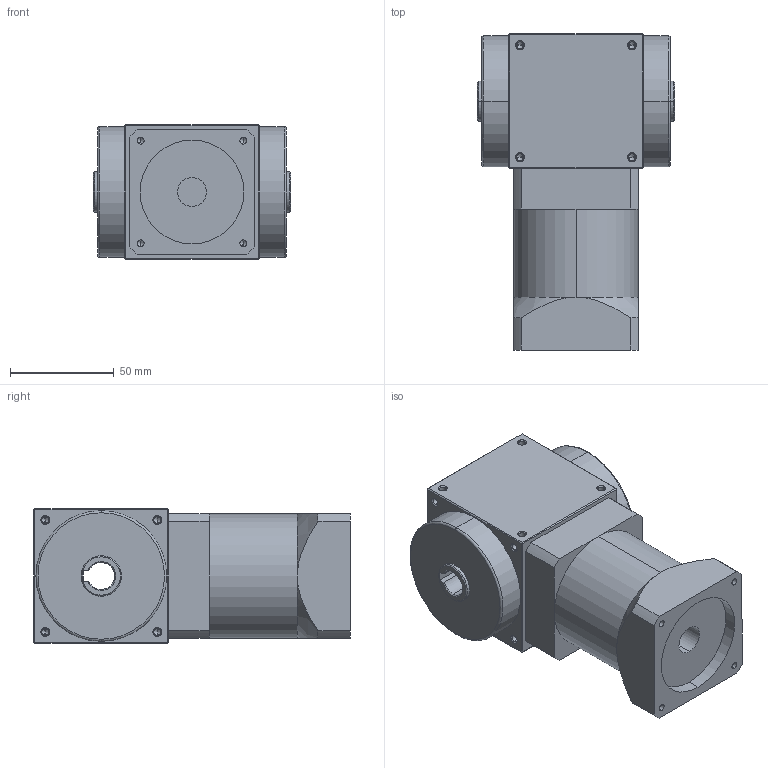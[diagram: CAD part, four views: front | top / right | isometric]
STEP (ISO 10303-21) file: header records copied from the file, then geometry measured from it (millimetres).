
FILE_DESCRIPTION (( 'STEP AP214' ), '1' );
FILE_NAME ('AT065-FH-L1--14-50-70-M4.STEP', '2019-07-06T03:17:05', ( 'User' ), ( 'Far123' ), 'SwSTEP 2.0', 'SolidWorks 2015', '' );
FILE_SCHEMA (( 'AUTOMOTIVE_DESIGN' ));
Length unit declared in the file: millimetre
Products named in the file (1): AT065-FH-L1--14-50-70-M4
Bounding box: 95 x 152.5 x 65 mm (x, y, z)
Volume: 603627.8 mm3; surface area: 57730 mm2
Topology: 1 solids, 1 shells, 267 faces, 670 edges, 364 vertices
Faces by surface type: cylinder 113, cone 102, plane 48, torus 4
Entity records: 8610 total; most frequent: CARTESIAN_POINT 1722, ORIENTED_EDGE 1244, DIRECTION 1242, EDGE_CURVE 622, AXIS2_PLACEMENT_3D 476, VERTEX_POINT 364, EDGE_LOOP 300, VECTOR 290
